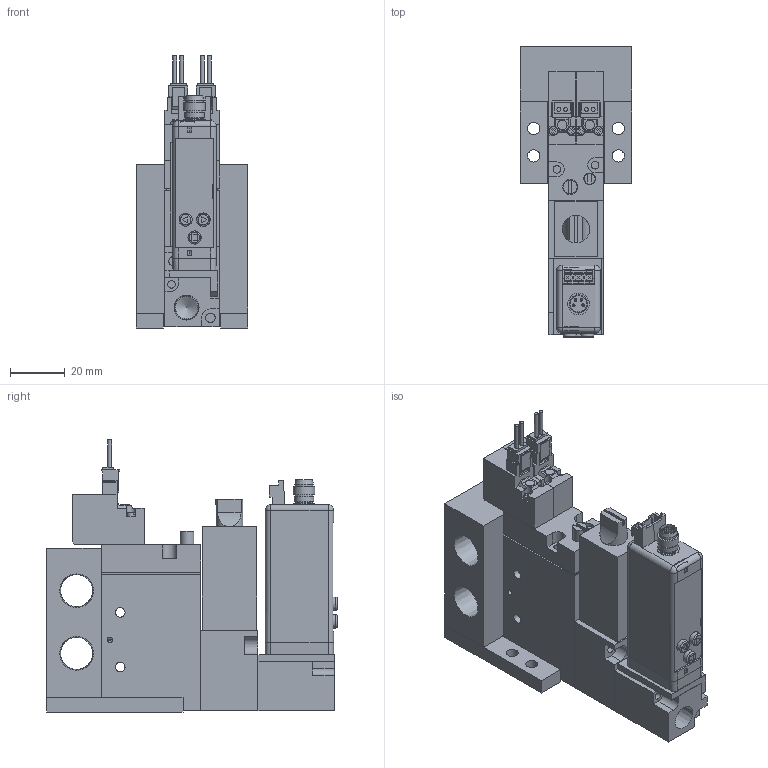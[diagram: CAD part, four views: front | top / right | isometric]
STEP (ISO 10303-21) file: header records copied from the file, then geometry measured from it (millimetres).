
FILE_DESCRIPTION(('STEP AP203'),'1');
FILE_NAME('BMPV32M2N20225BL101.stp','2025-06-16T08:58:48',(' '),(' '),'Spatial InterOp 3D',' ',' ');
FILE_SCHEMA(('CONFIG_CONTROL_DESIGN'));
Length unit declared in the file: millimetre
Products named in the file (16): BMPV32M2N20225BL101; VACUUM VALVE FUNCTION MPV42-A; ____; ______; upper plate-A; ___; ___ ___; _____; __; Filter Assy; ___-3(Rc); MVS-202; MB BRACKET; MB01
Assembly tree (15 placements, depth 2):
  BMPV32M2N20225BL101
    VACUUM VALVE FUNCTION MPV42-A
    VACUUM VALVE FUNCTION MPV42-A
    ____
    ______
    upper plate-A
    ___
    ___ ___
    _____
    __
    Filter Assy
    ___-3(Rc)
    MVS-202
    MB BRACKET
    MB BRACKET
    MB01
Bounding box: 41 x 106.6 x 99.75 mm (x, y, z)
Volume: 147200.3 mm3; surface area: 53870.3 mm2
Topology: 15 solids, 19 shells, 810 faces, 2061 edges, 1351 vertices
Faces by surface type: plane 648, cylinder 131, cone 24, sphere 4, torus 3
Full cylindrical faces by diameter (mm): 1 x4, 1.4 x4, 1.5 x1, 1.8 x2, 2 x2, 2.5 x6, 2.8 x4, 3 x4, 3.5 x14, 4 x1, 4.2 x1, 4.5 x8, 4.8 x3, 5 x3, 5.5 x1, 5.8 x2, 6 x1, 6.5 x9, 7 x1, 7.2 x1, 7.9 x1, 8 x2, 8.2 x1, 8.759 x1, 11.776 x2
Entity records: 24385 total; most frequent: CARTESIAN_POINT 4210, DIRECTION 3884, ORIENTED_EDGE 3840, EDGE_CURVE 1920, LINE 1576, VECTOR 1576, VERTEX_POINT 1331, AXIS2_PLACEMENT_3D 1154
